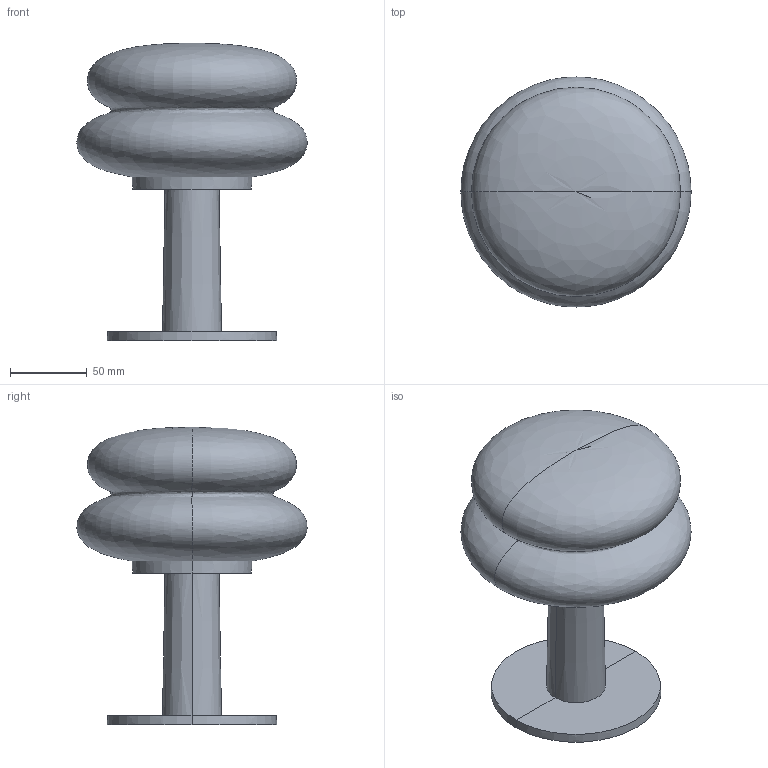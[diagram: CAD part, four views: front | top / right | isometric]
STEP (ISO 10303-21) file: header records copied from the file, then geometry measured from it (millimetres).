
FILE_DESCRIPTION(/* description */ (''),/* implementation_level */ '2;1');
FILE_NAME(/* name */ 'ILKW_SNOWMAN15_Portable_3D',/* time_stamp */ '2026-08-25T17:40:04+09:00',/* author */ (''),/* organization */ (''),/* preprocessor_version */ 'ST-DEVELOPER v19.2',/* originating_system */ 'Rhino 8.21',/* authorisation */ '');
FILE_SCHEMA (('CONFIG_CONTROL_DESIGN'));
Length unit declared in the file: millimetre
Products named in the file (1): Document
Bounding box: 149.99 x 149.93 x 194.1 mm (x, y, z)
Volume: 1316894.2 mm3; surface area: 96345.2 mm2
Topology: 1 solids, 1 shells, 13 faces, 26 edges, 13 vertices
Faces by surface type: bspline 8, plane 5
Entity records: 951 total; most frequent: CARTESIAN_POINT 660, ORIENTED_EDGE 48, DIRECTION 33, EDGE_CURVE 24, AXIS2_PLACEMENT_3D 19, ADVANCED_FACE 13, FACE_OUTER_BOUND 13, EDGE_LOOP 13
